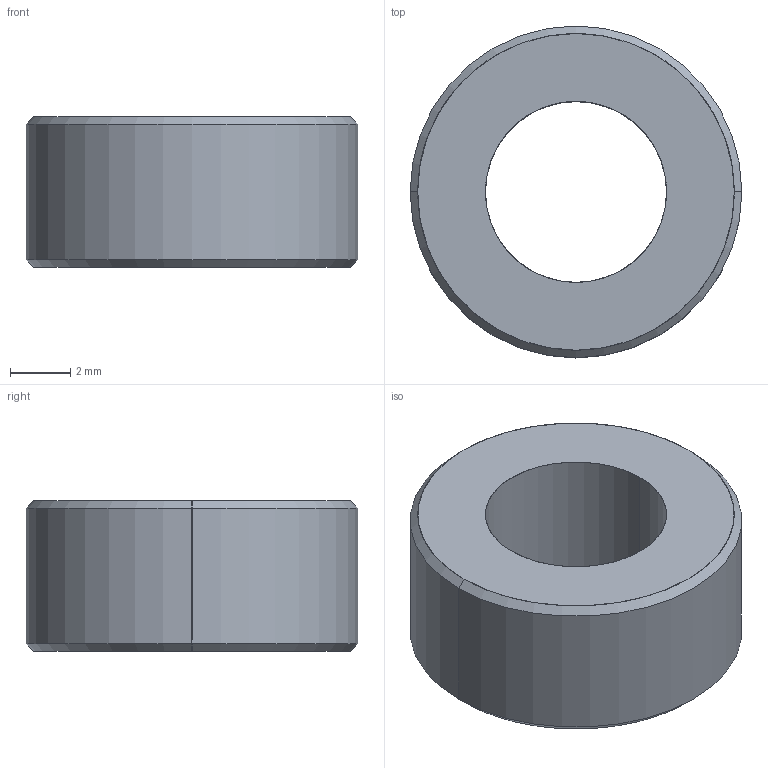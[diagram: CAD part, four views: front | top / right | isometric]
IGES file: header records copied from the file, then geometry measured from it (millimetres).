
Start section: SolidWorks IGES FILE using analytic representation for surfaces
Global section: file name: C:\Documents and Settings\lecoutey\Bureau\GR\55.110.10.IGS; native system: SolidWorks 2004 by SolidWorks Corporation; preprocessor: Version 5.3; author: lecoutey; date: 050404.180224; units: millimetre
Bounding box: 11 x 11 x 5 mm (x, y, z)
Surface area: 390.3 mm2 (no closed solid volume)
Topology: 0 solids, 0 shells, 10 faces, 160 edges, 160 vertices
Faces by surface type: revolution 8, bspline 2
